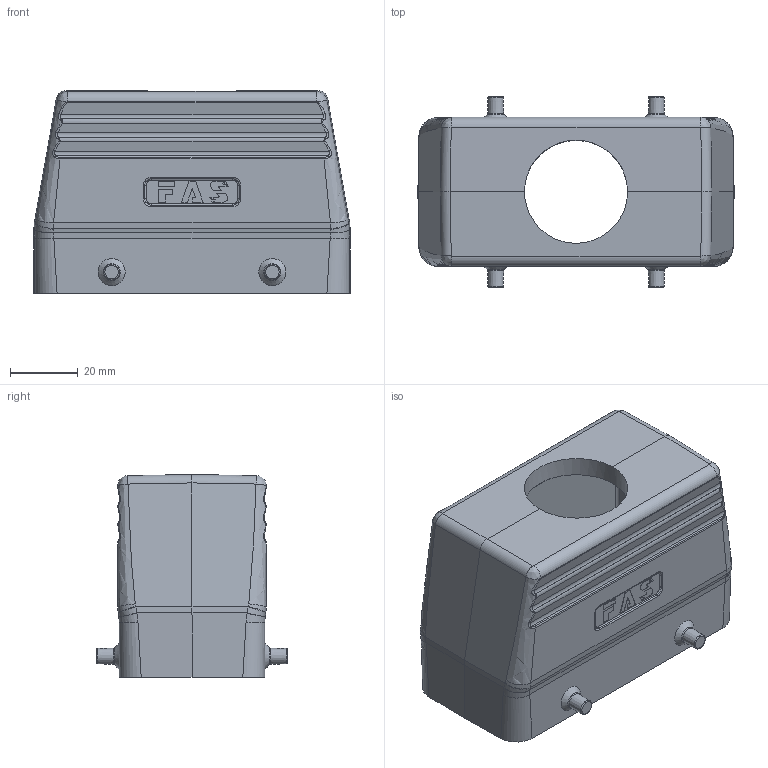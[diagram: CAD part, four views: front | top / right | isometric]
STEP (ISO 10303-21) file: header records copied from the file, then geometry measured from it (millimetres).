
FILE_DESCRIPTION (( 'STEP AP203' ), '1' );
FILE_NAME ('H16B-TG-M32.STEP', '2023-06-07T09:00:17', ( '' ), ( '' ), 'SwSTEP 2.0', 'SolidWorks 2016', '' );
FILE_SCHEMA (( 'CONFIG_CONTROL_DESIGN' ));
Length unit declared in the file: millimetre
Products named in the file (1): H16B-TG-M32
Bounding box: 93.5 x 56.4 x 60 mm (x, y, z)
Volume: 71543.2 mm3; surface area: 34261.3 mm2
Topology: 1 solids, 1 shells, 482 faces, 1175 edges, 722 vertices
Faces by surface type: plane 169, cylinder 133, bspline 128, cone 24, torus 24, sphere 4
Full cylindrical faces by diameter (mm): 30.5 x1
Entity records: 22646 total; most frequent: CARTESIAN_POINT 12758, ORIENTED_EDGE 2264, DIRECTION 1621, EDGE_CURVE 1132, VERTEX_POINT 712, AXIS2_PLACEMENT_3D 558, EDGE_LOOP 544, LINE 505
